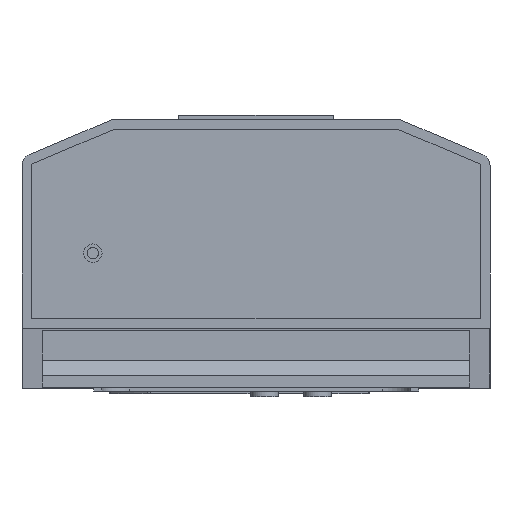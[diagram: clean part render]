
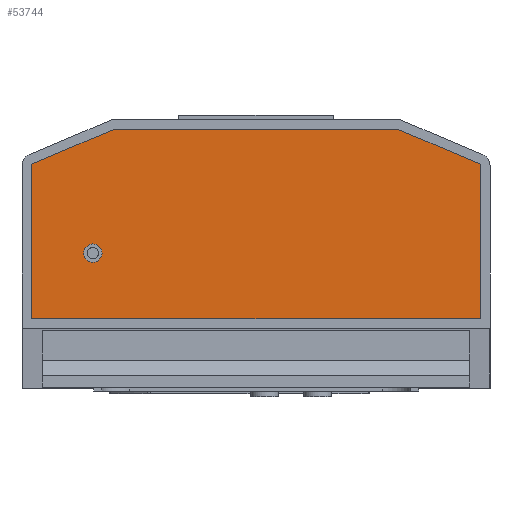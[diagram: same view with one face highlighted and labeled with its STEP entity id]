
A CAD part, front view. The second image highlights one B-rep face of the part: STEP entity #53744.
In plain terms, the highlighted planar face has unit normal (0, -1, 0).
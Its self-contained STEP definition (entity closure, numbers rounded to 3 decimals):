
#77 = ORIENTED_EDGE ( 'NONE', *, *, #15315, .T. ) ;
#78 = CARTESIAN_POINT ( 'NONE',  ( -147.965, 16., -10. ) ) ;
#595 = CARTESIAN_POINT ( 'NONE',  ( -232.5, 16., -206. ) ) ;
#827 = LINE ( 'NONE', #35470, #10533 ) ;
#1481 = FACE_OUTER_BOUND ( 'NONE', #7128, .T. ) ;
#2660 = VECTOR ( 'NONE', #31628, 1000. ) ;
#3366 = CARTESIAN_POINT ( 'NONE',  ( 232.5, 16., -45.883 ) ) ;
#3616 = CARTESIAN_POINT ( 'NONE',  ( -147.965, 16., -10. ) ) ;
#4045 = CARTESIAN_POINT ( 'NONE',  ( -232.5, 16., -45.883 ) ) ;
#4278 = EDGE_CURVE ( 'NONE', #9703, #20198, #827, .T. ) ;
#5972 = AXIS2_PLACEMENT_3D ( 'NONE', #37002, #37267, #54029 ) ;
#7128 = EDGE_LOOP ( 'NONE', ( #77, #12494, #17203, #24496, #20401, #49885 ) ) ;
#9138 = EDGE_CURVE ( 'NONE', #44721, #9703, #33918, .T. ) ;
#9310 = FACE_BOUND ( 'NONE', #13964, .T. ) ;
#9703 = VERTEX_POINT ( 'NONE', #595 ) ;
#10533 = VECTOR ( 'NONE', #17880, 1000. ) ;
#11167 = EDGE_CURVE ( 'NONE', #20198, #43073, #55011, .T. ) ;
#11469 = DIRECTION ( 'NONE',  ( 0., 0., 1. ) ) ;
#11772 = VECTOR ( 'NONE', #37284, 1000. ) ;
#12494 = ORIENTED_EDGE ( 'NONE', *, *, #39560, .T. ) ;
#13964 = EDGE_LOOP ( 'NONE', ( #42506, #33973 ) ) ;
#14341 = PLANE ( 'NONE',  #42227 ) ;
#14599 = CARTESIAN_POINT ( 'NONE',  ( -147.965, 16., -10. ) ) ;
#15315 = EDGE_CURVE ( 'NONE', #23761, #34528, #52287, .T. ) ;
#15419 = LINE ( 'NONE', #53946, #45856 ) ;
#17203 = ORIENTED_EDGE ( 'NONE', *, *, #9138, .T. ) ;
#17880 = DIRECTION ( 'NONE',  ( 1., 0., 0. ) ) ;
#20198 = VERTEX_POINT ( 'NONE', #28837 ) ;
#20401 = ORIENTED_EDGE ( 'NONE', *, *, #11167, .T. ) ;
#22951 = DIRECTION ( 'NONE',  ( -0.921, 0., 0.391 ) ) ;
#23761 = VERTEX_POINT ( 'NONE', #51811 ) ;
#24129 = CARTESIAN_POINT ( 'NONE',  ( -169., 16., -128.5 ) ) ;
#24496 = ORIENTED_EDGE ( 'NONE', *, *, #4278, .T. ) ;
#26060 = CARTESIAN_POINT ( 'NONE',  ( 0., 16., 0. ) ) ;
#27285 = EDGE_CURVE ( 'NONE', #28825, #39180, #51764, .T. ) ;
#28825 = VERTEX_POINT ( 'NONE', #24129 ) ;
#28837 = CARTESIAN_POINT ( 'NONE',  ( 232.5, 16., -206. ) ) ;
#30524 = EDGE_CURVE ( 'NONE', #43073, #23761, #15419, .T. ) ;
#31628 = DIRECTION ( 'NONE',  ( -0.921, 0., -0.391 ) ) ;
#33918 = LINE ( 'NONE', #4045, #11772 ) ;
#33973 = ORIENTED_EDGE ( 'NONE', *, *, #47542, .F. ) ;
#34528 = VERTEX_POINT ( 'NONE', #3616 ) ;
#34715 = DIRECTION ( 'NONE',  ( 0., 0., 1. ) ) ;
#35470 = CARTESIAN_POINT ( 'NONE',  ( -232.5, 16., -206. ) ) ;
#37002 = CARTESIAN_POINT ( 'NONE',  ( -169., 16., -138. ) ) ;
#37092 = DIRECTION ( 'NONE',  ( 0., -1., 0. ) ) ;
#37267 = DIRECTION ( 'NONE',  ( 0., -1., 0. ) ) ;
#37284 = DIRECTION ( 'NONE',  ( 0., 0., -1. ) ) ;
#37515 = AXIS2_PLACEMENT_3D ( 'NONE', #54934, #37092, #45198 ) ;
#37837 = VECTOR ( 'NONE', #11469, 1000. ) ;
#38605 = DIRECTION ( 'NONE',  ( -1., 0., 0. ) ) ;
#39180 = VERTEX_POINT ( 'NONE', #54285 ) ;
#39560 = EDGE_CURVE ( 'NONE', #34528, #44721, #52840, .T. ) ;
#39900 = VECTOR ( 'NONE', #38605, 1000. ) ;
#42227 = AXIS2_PLACEMENT_3D ( 'NONE', #26060, #43089, #34715 ) ;
#42506 = ORIENTED_EDGE ( 'NONE', *, *, #27285, .F. ) ;
#43073 = VERTEX_POINT ( 'NONE', #48382 ) ;
#43089 = DIRECTION ( 'NONE',  ( 0., 1., 0. ) ) ;
#44721 = VERTEX_POINT ( 'NONE', #52366 ) ;
#45198 = DIRECTION ( 'NONE',  ( 0., 0., 1. ) ) ;
#45856 = VECTOR ( 'NONE', #22951, 1000. ) ;
#47542 = EDGE_CURVE ( 'NONE', #39180, #28825, #54139, .T. ) ;
#48382 = CARTESIAN_POINT ( 'NONE',  ( 232.5, 16., -45.883 ) ) ;
#49885 = ORIENTED_EDGE ( 'NONE', *, *, #30524, .T. ) ;
#51764 = CIRCLE ( 'NONE', #37515, 9.5 ) ;
#51811 = CARTESIAN_POINT ( 'NONE',  ( 147.965, 16., -10. ) ) ;
#52287 = LINE ( 'NONE', #78, #39900 ) ;
#52366 = CARTESIAN_POINT ( 'NONE',  ( -232.5, 16., -45.883 ) ) ;
#52840 = LINE ( 'NONE', #14599, #2660 ) ;
#53744 = ADVANCED_FACE ( 'NONE', ( #9310, #1481 ), #14341, .F. ) ;
#53946 = CARTESIAN_POINT ( 'NONE',  ( 147.965, 16., -10. ) ) ;
#54029 = DIRECTION ( 'NONE',  ( 0., 0., 1. ) ) ;
#54139 = CIRCLE ( 'NONE', #5972, 9.5 ) ;
#54285 = CARTESIAN_POINT ( 'NONE',  ( -169., 16., -147.5 ) ) ;
#54934 = CARTESIAN_POINT ( 'NONE',  ( -169., 16., -138. ) ) ;
#55011 = LINE ( 'NONE', #3366, #37837 ) ;
